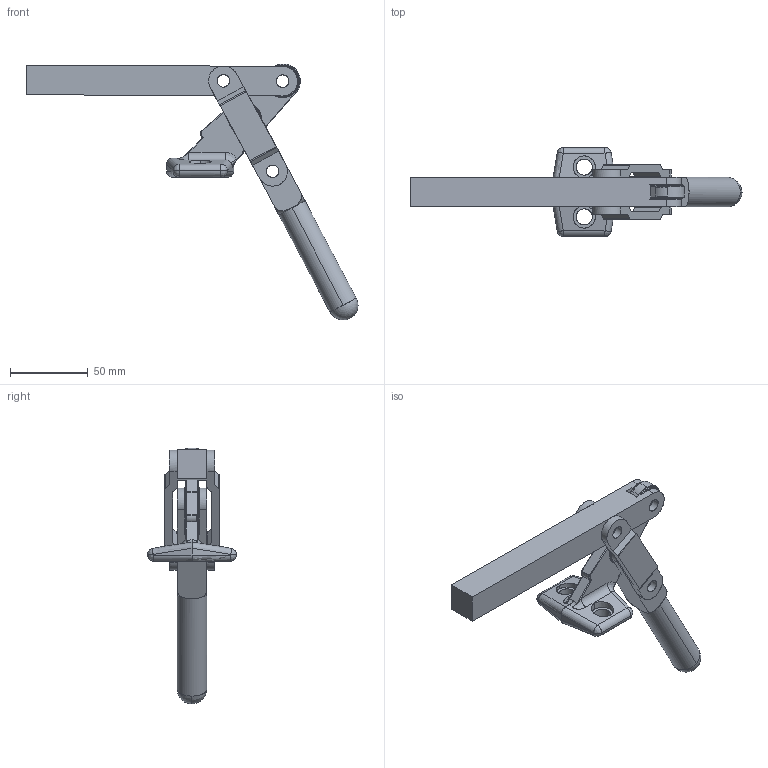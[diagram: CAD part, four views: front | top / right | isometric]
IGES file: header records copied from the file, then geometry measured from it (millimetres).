
Start section: Comment
Global section: file name: 75027.igs; native system:  By Spatial Corp.; preprocessor: XPlus PS/IGES 3.0; author: Author; organization: Title; date: 20050217.132932; units: inch
Bounding box: 212.84 x 57 x 164.08 mm (x, y, z)
Surface area: 46075.5 mm2 (no closed solid volume)
Topology: 0 solids, 0 shells, 225 faces, 1114 edges, 1086 vertices
Faces by surface type: revolution 138, extrusion 61, bspline 26
